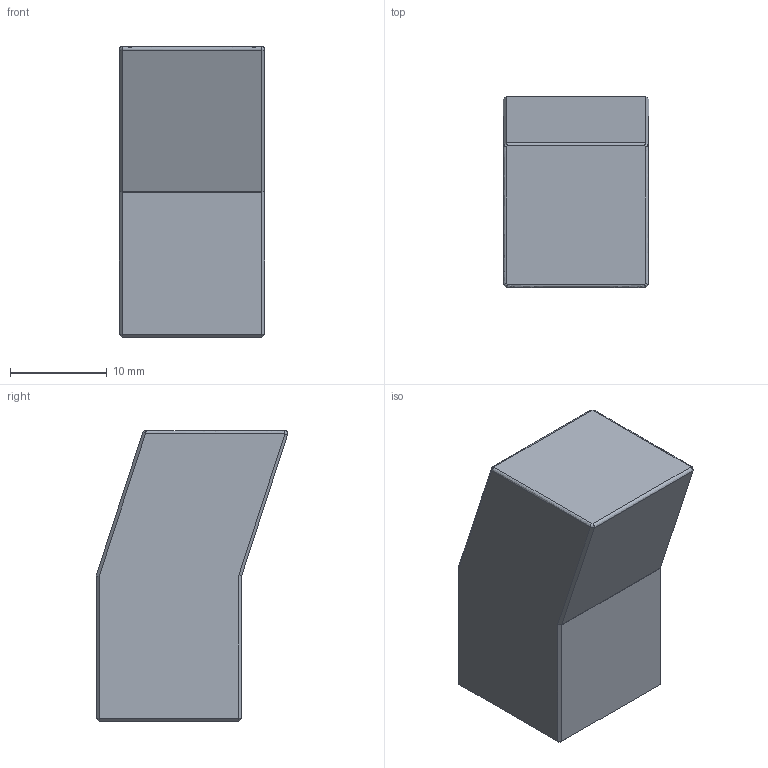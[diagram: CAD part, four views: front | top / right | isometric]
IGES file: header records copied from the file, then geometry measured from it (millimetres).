
Global section: file name: E:\UnigraphicsGraphicData\MISUMI_MOLD-PARTS\NX\3d_ance15_b15_l30_k18_00926_r00.igs; native system: NX V5.0; preprocessor: UGS NX IGES V5.0; author: MISUMI; date: 20101115.182446; units: millimetre
Bounding box: 15 x 19.76 x 30 mm (x, y, z)
Surface area: 2659.6 mm2 (no closed solid volume)
Topology: 0 solids, 0 shells, 37 faces, 207 edges, 206 vertices
Faces by surface type: bspline 37
